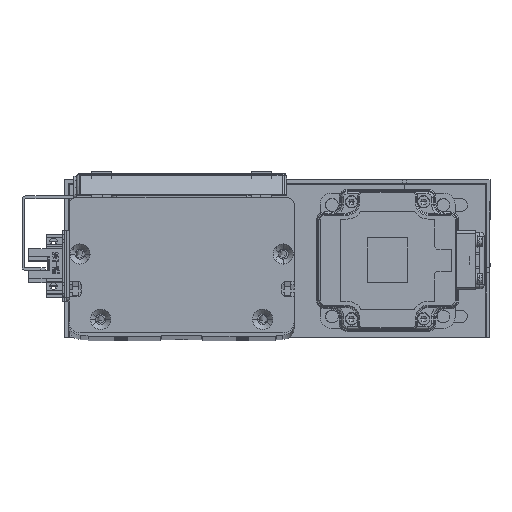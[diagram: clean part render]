
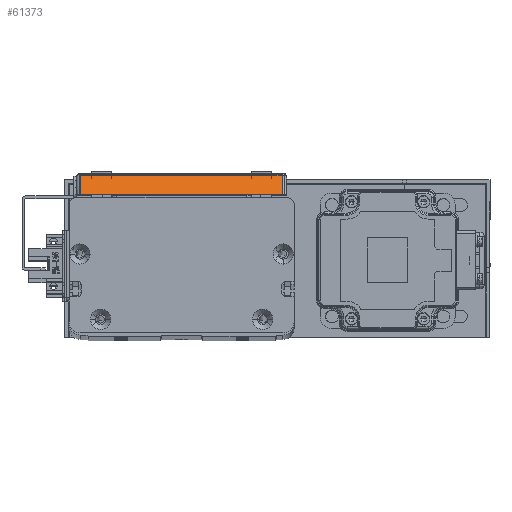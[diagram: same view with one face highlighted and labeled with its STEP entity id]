
A CAD part, top view. The second image highlights one B-rep face of the part: STEP entity #61373.
In plain terms, the highlighted planar face has unit normal (0, 0.707, 0.707) as drawn and (-0.707, 0, -0.707) by its records, which use the part's own axes.
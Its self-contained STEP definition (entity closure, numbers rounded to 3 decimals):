
#248 = EDGE_CURVE ( 'NONE', #45543, #16333, #36556, .T. ) ;
#1465 = PLANE ( 'NONE',  #28157 ) ;
#2235 = ORIENTED_EDGE ( 'NONE', *, *, #69232, .T. ) ;
#3539 = EDGE_CURVE ( 'NONE', #57473, #33708, #63379, .T. ) ;
#3607 = CARTESIAN_POINT ( 'NONE',  ( -68., 1.7, 5.6 ) ) ;
#8312 = ORIENTED_EDGE ( 'NONE', *, *, #3539, .T. ) ;
#12426 = CARTESIAN_POINT ( 'NONE',  ( -57.298, 91.7, -5.102 ) ) ;
#12490 = CARTESIAN_POINT ( 'NONE',  ( -57.298, 1.7, -5.102 ) ) ;
#13307 = VECTOR ( 'NONE', #66904, 1000. ) ;
#13806 = DIRECTION ( 'NONE',  ( -0.707, 0., -0.707 ) ) ;
#16333 = VERTEX_POINT ( 'NONE', #51298 ) ;
#18455 = CARTESIAN_POINT ( 'NONE',  ( -66.5, 1.7, 4.1 ) ) ;
#19031 = FACE_OUTER_BOUND ( 'NONE', #54842, .T. ) ;
#19276 = CARTESIAN_POINT ( 'NONE',  ( -57.298, 93.4, -5.102 ) ) ;
#23010 = ORIENTED_EDGE ( 'NONE', *, *, #36467, .T. ) ;
#28157 = AXIS2_PLACEMENT_3D ( 'NONE', #40987, #13806, #61396 ) ;
#32320 = DIRECTION ( 'NONE',  ( 0.707, 0., -0.707 ) ) ;
#33708 = VERTEX_POINT ( 'NONE', #12490 ) ;
#34442 = CARTESIAN_POINT ( 'NONE',  ( -66.5, 93.4, 4.1 ) ) ;
#35642 = DIRECTION ( 'NONE',  ( 0., -1., 0. ) ) ;
#36467 = EDGE_CURVE ( 'NONE', #33708, #45543, #55455, .T. ) ;
#36556 = LINE ( 'NONE', #34442, #13307 ) ;
#38524 = LINE ( 'NONE', #54172, #42807 ) ;
#39157 = VECTOR ( 'NONE', #53221, 1000. ) ;
#40987 = CARTESIAN_POINT ( 'NONE',  ( -68., 93.4, 5.6 ) ) ;
#42807 = VECTOR ( 'NONE', #32320, 1000. ) ;
#45543 = VERTEX_POINT ( 'NONE', #18455 ) ;
#48784 = VECTOR ( 'NONE', #35642, 1000. ) ;
#51298 = CARTESIAN_POINT ( 'NONE',  ( -66.5, 91.7, 4.1 ) ) ;
#53221 = DIRECTION ( 'NONE',  ( -0.707, 0., 0.707 ) ) ;
#54172 = CARTESIAN_POINT ( 'NONE',  ( -68., 91.7, 5.6 ) ) ;
#54842 = EDGE_LOOP ( 'NONE', ( #23010, #55439, #2235, #8312 ) ) ;
#55439 = ORIENTED_EDGE ( 'NONE', *, *, #248, .T. ) ;
#55455 = LINE ( 'NONE', #3607, #39157 ) ;
#57473 = VERTEX_POINT ( 'NONE', #12426 ) ;
#61373 = ADVANCED_FACE ( 'NONE', ( #19031 ), #1465, .T. ) ;
#61396 = DIRECTION ( 'NONE',  ( -0.707, 0., 0.707 ) ) ;
#63379 = LINE ( 'NONE', #19276, #48784 ) ;
#66904 = DIRECTION ( 'NONE',  ( 0., 1., 0. ) ) ;
#69232 = EDGE_CURVE ( 'NONE', #16333, #57473, #38524, .T. ) ;
